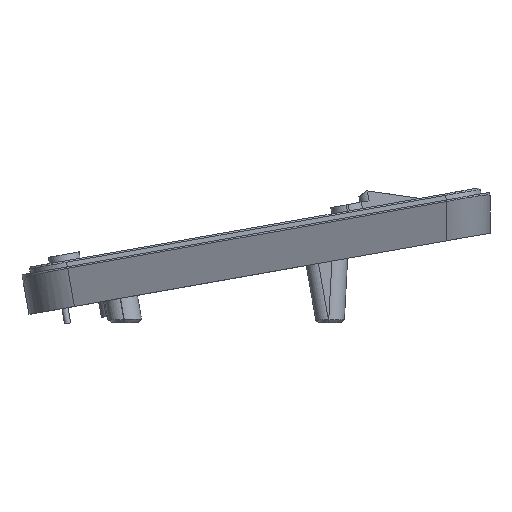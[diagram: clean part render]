
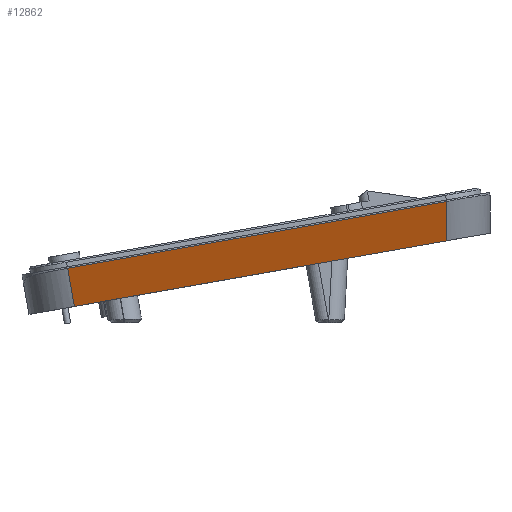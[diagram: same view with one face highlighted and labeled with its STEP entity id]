
A CAD part, left-side view. The second image highlights one B-rep face of the part: STEP entity #12862.
In plain terms, the highlighted planar face has unit normal (-0.923, -0.067, -0.38).
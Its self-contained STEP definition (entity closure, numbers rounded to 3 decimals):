
#1649=CARTESIAN_POINT('',(-153.846,1354.928,
-17.254));
#1723=DIRECTION('',(0.,-0.985,0.174));
#1724=VECTOR('',#1723,121.178);
#1725=CARTESIAN_POINT('',(-148.656,1474.265,
-50.91));
#1726=LINE('',#1725,#1724);
#1883=CARTESIAN_POINT('',(-148.656,1474.265,
-50.91));
#1933=DIRECTION('',(-0.386,0.16,0.909));
#1934=VECTOR('',#1933,13.462);
#1935=CARTESIAN_POINT('',(-148.656,1474.265,
-50.91));
#1936=LINE('',#1935,#1934);
#1937=DIRECTION('',(0.,-0.985,0.174));
#1938=VECTOR('',#1937,123.368);
#1939=CARTESIAN_POINT('',(-153.846,1476.422,
-38.677));
#1940=LINE('',#1939,#1938);
#1941=DIRECTION('',(0.381,0.,-0.925));
#1942=VECTOR('',#1941,13.639);
#1943=CARTESIAN_POINT('',(-153.846,1354.928,
-17.254));
#1944=LINE('',#1943,#1942);
#9452=VERTEX_POINT('',#1883);
#9453=CARTESIAN_POINT('',(-148.656,1354.928,
-29.867));
#9454=VERTEX_POINT('',#9453);
#9506=CARTESIAN_POINT('',(-153.846,1476.422,
-38.677));
#9508=VERTEX_POINT('',#9506);
#9509=VERTEX_POINT('',#1649);
#12851=CARTESIAN_POINT('',(-132.128,832.294,
22.127));
#12852=DIRECTION('',(0.923,0.067,0.38));
#12853=DIRECTION('',(0.,-0.985,0.174));
#12854=AXIS2_PLACEMENT_3D('',#12851,#12852,#12853);
#12855=PLANE('',#12854);
#12856=ORIENTED_EDGE('',*,*,#12790,.F.);
#12857=ORIENTED_EDGE('',*,*,#12841,.T.);
#12858=ORIENTED_EDGE('',*,*,#12552,.T.);
#12859=ORIENTED_EDGE('',*,*,#12711,.T.);
#12860=EDGE_LOOP('',(#12856,#12857,#12858,#12859));
#12861=FACE_OUTER_BOUND('',#12860,.F.);
#12862=ADVANCED_FACE('',(#12861),#12855,.F.);
#12552=EDGE_CURVE('',#9508,#9509,#1940,.T.);
#12711=EDGE_CURVE('',#9509,#9454,#1944,.T.);
#12790=EDGE_CURVE('',#9452,#9454,#1726,.T.);
#12841=EDGE_CURVE('',#9452,#9508,#1936,.T.);
